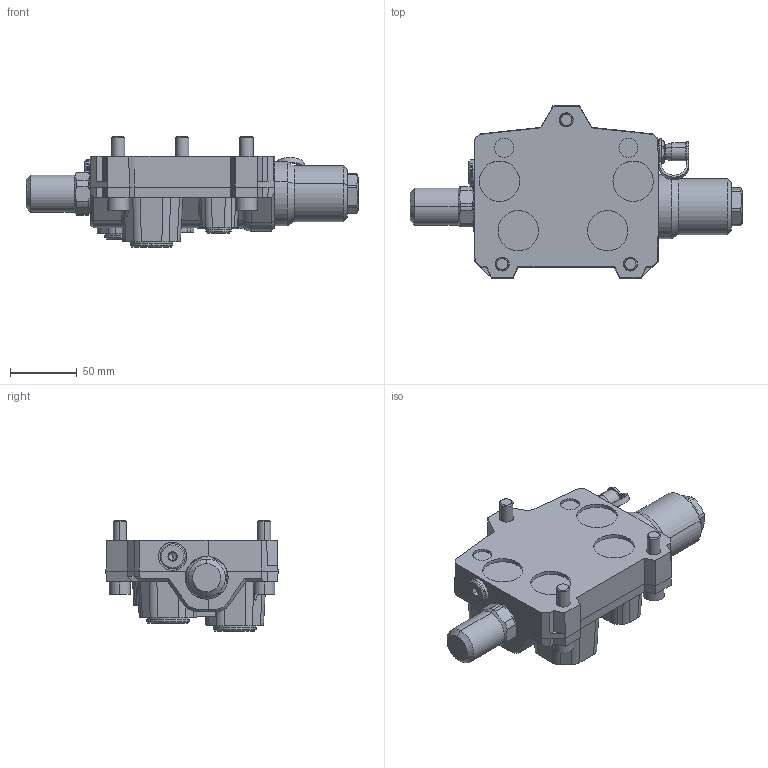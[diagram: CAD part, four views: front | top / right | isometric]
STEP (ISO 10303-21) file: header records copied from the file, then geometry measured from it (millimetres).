
FILE_DESCRIPTION (( 'STEP AP203' ), '1' );
FILE_NAME ('S-V3860.STEP', '2018-05-21T11:17:39', ( '' ), ( '' ), 'SwSTEP 2.0', 'SolidWorks 2018', '' );
FILE_SCHEMA (( 'CONFIG_CONTROL_DESIGN' ));
Length unit declared in the file: millimetre
Products named in the file (1): S-V3860
Bounding box: 248.5 x 128.8 x 82.6 mm (x, y, z)
Volume: 779872.7 mm3; surface area: 113577.2 mm2
Topology: 13 solids, 13 shells, 989 faces, 2446 edges, 1526 vertices
Faces by surface type: plane 463, cylinder 246, cone 137, bspline 117, torus 26
Entity records: 33807 total; most frequent: CARTESIAN_POINT 11526, ORIENTED_EDGE 4832, DIRECTION 4206, EDGE_CURVE 2416, VERTEX_POINT 1526, AXIS2_PLACEMENT_3D 1433, LINE 1340, VECTOR 1340
